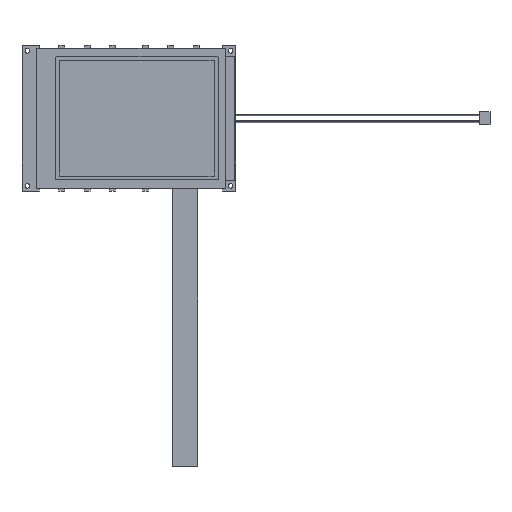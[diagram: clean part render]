
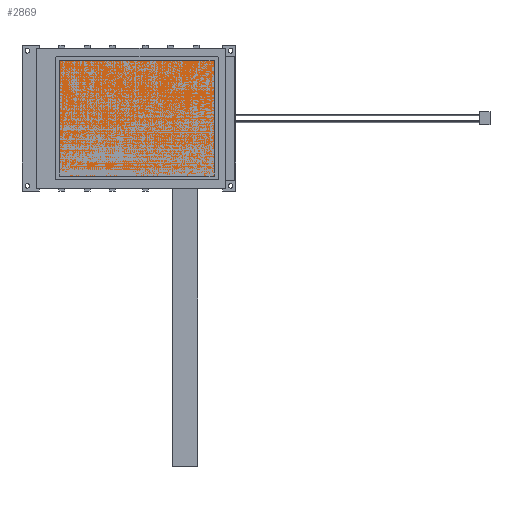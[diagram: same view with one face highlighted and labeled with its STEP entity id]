
A CAD part, top view. The second image highlights one B-rep face of the part: STEP entity #2869.
In plain terms, the highlighted planar face has unit normal (0, 0, 1).
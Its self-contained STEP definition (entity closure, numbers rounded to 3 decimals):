
#57 = ORIENTED_EDGE ( 'NONE', *, *, #9212, .T. ) ;
#320 = LINE ( 'NONE', #6068, #4121 ) ;
#370 = LINE ( 'NONE', #4468, #8217 ) ;
#740 = EDGE_LOOP ( 'NONE', ( #57, #3517, #1983, #5601 ) ) ;
#1152 = VERTEX_POINT ( 'NONE', #5402 ) ;
#1218 = DIRECTION ( 'NONE',  ( 0., 0., 1. ) ) ;
#1261 = PLANE ( 'NONE',  #4140 ) ;
#1479 = VECTOR ( 'NONE', #8826, 1000. ) ;
#1983 = ORIENTED_EDGE ( 'NONE', *, *, #8432, .T. ) ;
#2331 = VECTOR ( 'NONE', #9471, 1000. ) ;
#2807 = VERTEX_POINT ( 'NONE', #4062 ) ;
#2869 = ADVANCED_FACE ( 'NONE', ( #4814 ), #1261, .T. ) ;
#2989 = DIRECTION ( 'NONE',  ( 0., -1., 0. ) ) ;
#3517 = ORIENTED_EDGE ( 'NONE', *, *, #4735, .T. ) ;
#3522 = DIRECTION ( 'NONE',  ( 1., 0., 0. ) ) ;
#3685 = VERTEX_POINT ( 'NONE', #5612 ) ;
#3903 = CARTESIAN_POINT ( 'NONE',  ( 63.59, -43.19, 7.2 ) ) ;
#4021 = CARTESIAN_POINT ( 'NONE',  ( -51.59, 43.19, 7.2 ) ) ;
#4062 = CARTESIAN_POINT ( 'NONE',  ( 63.59, 43.19, 7.2 ) ) ;
#4121 = VECTOR ( 'NONE', #7563, 1000. ) ;
#4140 = AXIS2_PLACEMENT_3D ( 'NONE', #7281, #1218, #3522 ) ;
#4468 = CARTESIAN_POINT ( 'NONE',  ( -51.59, 43.19, 7.2 ) ) ;
#4735 = EDGE_CURVE ( 'NONE', #1152, #5067, #320, .T. ) ;
#4814 = FACE_OUTER_BOUND ( 'NONE', #740, .T. ) ;
#5067 = VERTEX_POINT ( 'NONE', #3903 ) ;
#5244 = LINE ( 'NONE', #8062, #1479 ) ;
#5402 = CARTESIAN_POINT ( 'NONE',  ( -51.59, -43.19, 7.2 ) ) ;
#5601 = ORIENTED_EDGE ( 'NONE', *, *, #6905, .T. ) ;
#5612 = CARTESIAN_POINT ( 'NONE',  ( -51.59, 43.19, 7.2 ) ) ;
#6068 = CARTESIAN_POINT ( 'NONE',  ( -51.59, -43.19, 7.2 ) ) ;
#6582 = LINE ( 'NONE', #4021, #2331 ) ;
#6905 = EDGE_CURVE ( 'NONE', #2807, #3685, #6582, .T. ) ;
#7281 = CARTESIAN_POINT ( 'NONE',  ( 0., 0., 7.2 ) ) ;
#7563 = DIRECTION ( 'NONE',  ( 1., 0., 0. ) ) ;
#8062 = CARTESIAN_POINT ( 'NONE',  ( 63.59, 43.19, 7.2 ) ) ;
#8217 = VECTOR ( 'NONE', #2989, 1000. ) ;
#8432 = EDGE_CURVE ( 'NONE', #5067, #2807, #5244, .T. ) ;
#8826 = DIRECTION ( 'NONE',  ( 0., 1., 0. ) ) ;
#9212 = EDGE_CURVE ( 'NONE', #3685, #1152, #370, .T. ) ;
#9471 = DIRECTION ( 'NONE',  ( -1., 0., 0. ) ) ;
